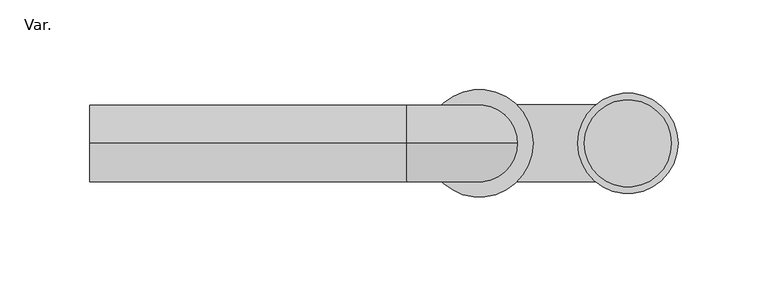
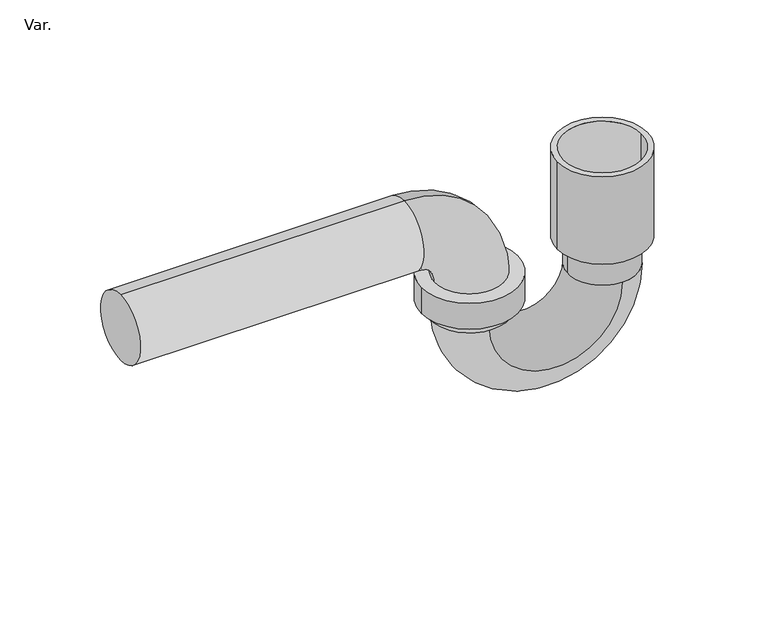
"""IFC4 building model written with IfcOpenShell, lengths in millimetres: pipe fitting geometry, PavcoWavin_UnionesDeTuberia_SanitariaSifonDesmontable : Var.."""

from ifc_helpers import new_model, si_unit, point, frame, frame_2d, origin, place, context, project, spatial, polyline, circle_curve, ellipse_curve, trimmed, segment, composite_curve, outline, extrude, source, transform, mapped, element, save
from ifc_brep_helpers import plane_surface, cylinder_surface, revolved_surface, advanced_brep


def var_c5ad9c7a(model_context):
    return source(origin(), model_context, "Body", "SolidModel", [
        extrude(outline(composite_curve([segment(trimmed(circle_curve(frame_2d((216.39, 0.0)), 29.85), [point((246.24, 0.0))], [point((186.54, 0.0))], False, "CARTESIAN"), True, "CONTINUOUS"), segment(trimmed(circle_curve(frame_2d((216.39, 0.0)), 29.85), [point((186.54, 0.0))], [point((246.24, 0.0))], False, "CARTESIAN"), True, "CONTINUOUS")], self_intersect=False)), frame((0.0, 0.0, -55.9948018), z_axis=(0.0, 0.0, 1.0), x_axis=(1.0, 0.0, 0.0)), (0.0, 0.0, 1.0), 17.0112403),
        extrude(outline(composite_curve([segment(trimmed(circle_curve(frame_2d((216.39, 0.0)), 24.5), [point((191.89, 0.0))], [point((240.89, 0.0))], False, "CARTESIAN"), True, "CONTINUOUS"), segment(trimmed(circle_curve(frame_2d((216.39, 0.0)), 24.5), [point((240.89, 0.0))], [point((191.89, 0.0))], False, "CARTESIAN"), True, "CONTINUOUS")], self_intersect=False)), frame((0.0, 0.0, -62.14), z_axis=(0.0, 0.0, 1.0), x_axis=(1.0, 0.0, 0.0)), (0.0, 0.0, 1.0), 6.1451982),
        advanced_brep(
        [(298.89, 21.39, -62.14), (216.39, 21.39, -62.14), (237.78, 0.0, -62.14), (216.39, -21.39, -62.14), (298.89, -21.39, -62.14), (277.5, 0.0, -62.14), (320.28, 0.0, -62.14), (195.0, 0.0, -62.14), (323.1, 0.0, -40.91), (274.68, 0.0, -40.91), (274.68, 0.0, 13.78), (323.1, 0.0, 13.78), (237.78, 0.0, -40.24), (195.0, 0.0, -40.24), (176.15, 0.0, 21.39), (176.15, 0.0, -21.39), (0.0, 0.0, 21.39), (0.0, 0.0, -21.39), (277.5, 0.0, -43.57), (320.28, 0.0, -43.57), (271.005, 0.0, 13.78), (326.775, 0.0, 13.78), (271.005, 0.0, -43.57), (326.775, 0.0, -43.57)],
        [
            (0, 1, circle_curve(frame((257.64, 21.39, -62.14), z_axis=(0.0, 1.0, 0.0), x_axis=(-1.0, 0.0, 0.0)), 41.25)),
            (1, 2, circle_curve(frame((216.39, 0.0, -62.14), z_axis=(0.0, 0.0, -1.0), x_axis=(0.0, -1.0, 0.0)), 21.39)),
            (2, 3, circle_curve(frame((216.39, 0.0, -62.14), z_axis=(0.0, 0.0, -1.0), x_axis=(0.0, -1.0, 0.0)), 21.39)),
            (3, 4, circle_curve(frame((257.64, -21.39, -62.14), z_axis=(0.0, -1.0, 0.0), x_axis=(-1.0, 0.0, 0.0)), 41.25)),
            (4, 5, circle_curve(frame((298.89, 0.0, -62.14), z_axis=(0.0, 0.0, -1.0), x_axis=(0.0, -1.0, 0.0)), 21.39)),
            (5, 0, circle_curve(frame((298.89, 0.0, -62.14), z_axis=(0.0, 0.0, -1.0), x_axis=(0.0, -1.0, 0.0)), 21.39)),
            (0, 6, circle_curve(frame((298.89, 0.0, -62.14), z_axis=(0.0, 0.0, -1.0), x_axis=(0.0, -1.0, 0.0)), 21.39)),
            (6, 4, circle_curve(frame((298.89, 0.0, -62.14), z_axis=(0.0, 0.0, -1.0), x_axis=(0.0, -1.0, 0.0)), 21.39)),
            (3, 7, circle_curve(frame((216.39, 0.0, -62.14), z_axis=(0.0, 0.0, -1.0), x_axis=(0.0, -1.0, 0.0)), 21.39)),
            (7, 1, circle_curve(frame((216.39, 0.0, -62.14), z_axis=(0.0, 0.0, -1.0), x_axis=(0.0, -1.0, 0.0)), 21.39)),
            (8, 9, circle_curve(frame((298.89, 0.0, -40.91), z_axis=(0.0, 0.0, 1.0), x_axis=(-1.0, 0.0, 0.0)), 24.21)),
            (9, 8, circle_curve(frame((298.89, 0.0, -40.91), z_axis=(0.0, 0.0, 1.0), x_axis=(-1.0, 0.0, 0.0)), 24.21)),
            (9, 10),
            (10, 11, circle_curve(frame((298.89, 0.0, 13.78), z_axis=(0.0, 0.0, 1.0), x_axis=(-1.0, 0.0, 0.0)), 24.21)),
            (11, 8),
            (11, 10, circle_curve(frame((298.89, 0.0, 13.78), z_axis=(0.0, 0.0, 1.0), x_axis=(-1.0, 0.0, 0.0)), 24.21)),
            (2, 12),
            (12, 13, circle_curve(frame((216.39, 0.0, -40.24), z_axis=(0.0, 0.0, -1.0), x_axis=(-1.0, 0.0, 0.0)), 21.39)),
            (13, 7),
            (13, 12, circle_curve(frame((216.39, 0.0, -40.24), z_axis=(0.0, 0.0, -1.0), x_axis=(-1.0, 0.0, 0.0)), 21.39)),
            (12, 14, circle_curve(frame((176.15, 0.0, -40.24), z_axis=(0.0, -1.0, 0.0), x_axis=(1.0, 0.0, 0.0)), 61.63)),
            (14, 15, circle_curve(frame((176.15, 0.0, 0.0), z_axis=(1.0, 0.0, 0.0), x_axis=(0.0, 0.0, -1.0)), 21.39)),
            (15, 13, circle_curve(frame((176.15, 0.0, -40.24), z_axis=(0.0, 1.0, 0.0), x_axis=(1.0, 0.0, 0.0)), 18.85)),
            (15, 14, circle_curve(frame((176.15, 0.0, 0.0), z_axis=(1.0, 0.0, 0.0), x_axis=(0.0, 0.0, -1.0)), 21.39)),
            (16, 17, circle_curve(frame((0.0, 0.0, 0.0), z_axis=(-1.0, 0.0, 0.0), x_axis=(0.0, 0.0, -1.0)), 21.39)),
            (17, 16, circle_curve(frame((0.0, 0.0, 0.0), z_axis=(-1.0, 0.0, 0.0), x_axis=(0.0, 0.0, -1.0)), 21.39)),
            (14, 16),
            (17, 15),
            (18, 5),
            (6, 19),
            (19, 18, circle_curve(frame((298.89, 0.0, -43.57), z_axis=(0.0, 0.0, -1.0), x_axis=(1.0, 0.0, 0.0)), 21.39)),
            (18, 19, circle_curve(frame((298.89, 0.0, -43.57), z_axis=(0.0, 0.0, -1.0), x_axis=(1.0, 0.0, 0.0)), 21.39)),
            (20, 21, circle_curve(frame((298.89, 0.0, 13.78), z_axis=(0.0, 0.0, 1.0), x_axis=(1.0, 0.0, 0.0)), 27.885)),
            (21, 20, circle_curve(frame((298.89, 0.0, 13.78), z_axis=(0.0, 0.0, 1.0), x_axis=(1.0, 0.0, 0.0)), 27.885)),
            (22, 23, circle_curve(frame((298.89, 0.0, -43.57), z_axis=(0.0, 0.0, -1.0), x_axis=(1.0, 0.0, 0.0)), 27.885)),
            (23, 22, circle_curve(frame((298.89, 0.0, -43.57), z_axis=(0.0, 0.0, -1.0), x_axis=(1.0, 0.0, 0.0)), 27.885)),
            (20, 22),
            (23, 21),
        ],
        [
            revolved_surface(trimmed(ellipse_curve(frame((216.39, 0.0, -62.14), z_axis=(0.0, 0.0, -1.0), x_axis=(0.0, -1.0, 0.0)), 21.39, 21.39), [point((216.39, 21.39, -62.14))], [point((216.39, -21.39, -62.14))], True, "CARTESIAN"), (257.64, 381.0, -62.14), (0.0, 1.0, 0.0)),
            revolved_surface(trimmed(ellipse_curve(frame((216.39, 0.0, -62.14), z_axis=(0.0, 0.0, -1.0), x_axis=(0.0, -1.0, 0.0)), 21.39, 21.39), [point((216.39, -21.39, -62.14))], [point((216.39, 21.39, -62.14))], True, "CARTESIAN"), (257.64, 381.0, -62.14), (0.0, 1.0, 0.0)),
            plane_surface(frame((274.68, 0.0, -40.91), z_axis=(0.0, 0.0, 1.0), x_axis=(0.0, 1.0, 0.0))),
            revolved_surface(polyline([(274.68, 0.0, -40.91), (274.68, 0.0, 13.78)]), (298.89, 0.0, 13.78), (0.0, 0.0, -1.0)),
            cylinder_surface(frame((216.39, 0.0, -62.14), z_axis=(0.0, 0.0, -1.0), x_axis=(-1.0, 0.0, 0.0)), 21.39),
            revolved_surface(trimmed(ellipse_curve(frame((216.39, 0.0, -40.24), z_axis=(0.0, 0.0, -1.0), x_axis=(-1.0, 0.0, 0.0)), 21.39, 21.39), [point((237.78, 0.0, -40.24))], [point((195.0, 0.0, -40.24))], True, "CARTESIAN"), (176.15, 0.0, -40.24), (0.0, -1.0, 0.0)),
            revolved_surface(trimmed(ellipse_curve(frame((216.39, 0.0, -40.24), z_axis=(0.0, 0.0, -1.0), x_axis=(-1.0, 0.0, 0.0)), 21.39, 21.39), [point((195.0, 0.0, -40.24))], [point((237.78, 0.0, -40.24))], True, "CARTESIAN"), (176.15, 0.0, -40.24), (0.0, -1.0, 0.0)),
            plane_surface(frame((0.0, 0.0, 0.0), z_axis=(-1.0, 0.0, 0.0), x_axis=(0.0, -1.0, 0.0))),
            cylinder_surface(frame((176.15, 0.0, 0.0), z_axis=(1.0, 0.0, 0.0), x_axis=(0.0, 0.0, -1.0)), 21.39),
            cylinder_surface(frame((298.89, 0.0, -62.14), z_axis=(0.0, 0.0, 1.0), x_axis=(1.0, 0.0, 0.0)), 21.39),
            plane_surface(frame((326.775, 0.0, 13.78), z_axis=(0.0, 0.0, 1.0), x_axis=(0.0, 1.0, 0.0))),
            plane_surface(frame((326.775, 0.0, -43.57), z_axis=(0.0, 0.0, -1.0), x_axis=(0.0, -1.0, 0.0))),
            cylinder_surface(frame((298.89, 0.0, -43.57), z_axis=(0.0, 0.0, 1.0), x_axis=(1.0, 0.0, 0.0)), 27.885),
        ],
        [
            (0, [[1, 2, 3, 4, 5, 6]]),
            (1, [[-1, 7, 8, -4, 9, 10]]),
            (2, [[11, 12]]),
            (3, [[-12, 13, 14, 15]]),
            (3, [[-11, -15, 16, -13]]),
            (4, [[17, 18, 19, -9, -3]]),
            (4, [[-17, -2, -10, -19, 20]]),
            (5, [[-18, 21, 22, 23]]),
            (6, [[-20, -23, 24, -21]]),
            (7, [[25, 26]]),
            (8, [[-22, 27, -26, 28]]),
            (8, [[-24, -28, -25, -27]]),
            (9, [[29, -5, -8, 30, 31]]),
            (9, [[-29, 32, -30, -7, -6]]),
            (10, [[33, 34], [-14, -16]]),
            (11, [[35, 36], [-31, -32]]),
            (12, [[-33, 37, -36, 38]]),
            (12, [[-34, -38, -35, -37]]),
        ],
    ),
    ])


if __name__ == "__main__":
    model = new_model("IFC4")
    model_context = context("Model", 3, world=origin())
    ifc_project = project(units=[si_unit("LENGTHUNIT", "METRE", prefix="MILLI")], contexts=[model_context])
    site = spatial("IfcSite", under=ifc_project)
    building = spatial("IfcBuilding", under=site)
    placement = place(None, origin())
    var_shape = var_c5ad9c7a(model_context)
    element("IfcPipeFitting", 1, ObjectType="PavcoWavin_UnionesDeTuberia_SanitariaSifonDesmontable : Var.", at=placement, inside=building, context=model_context, shape_type="MappedRepresentation", body=[
        mapped(var_shape, transform((0.0, 0.0, 0.0), x_axis=(1.0, 0.0, 0.0), y_axis=(0.0, 1.0, 0.0), z_axis=(0.0, 0.0, 1.0))),
    ])
    save(model, "model.ifc")
